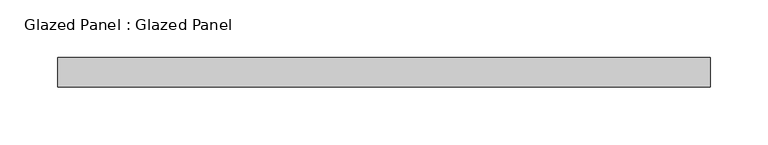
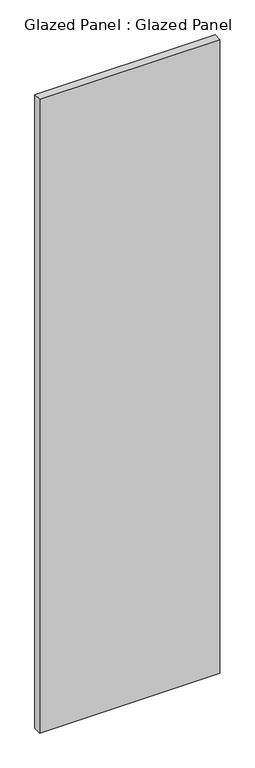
"""IFC4 building model written with IfcOpenShell, lengths in millimetres: plate geometry, Glazed Panel : Glazed Panel."""

import ifcopenshell
import ifcopenshell.guid

model = None  # the IFC model being written
_history = None  # IfcOwnerHistory: only IFC2X3 demands one
_inside = {}  # id of a spatial element -> (the spatial element, [elements in it])
_under = {}  # id of a project, library or spatial element -> (it, [spatial elements below it])
_declared = {}  # id of a project -> (the project, [libraries it declares])
_typed = {}  # id of a type object -> (the type object, [elements of that type])
_made_of = {}  # id of a material, layer set ... -> (it, [elements and type objects made of it])


def new_model(schema):
    """Start an empty IFC model of exactly this schema.

    Asked for "IFC4X3", IfcOpenShell would pick the latest addendum, in which some entities
    have other attributes; the version numbers below select the first issue.
    IFC2X3 requires an IfcOwnerHistory on every rooted entity: one is made here for all.
    """
    global model, _history
    if schema == "IFC4X3":
        model = ifcopenshell.file(schema_version=(4, 3, 0, 0))
    else:
        model = ifcopenshell.file(schema=schema)
    _inside.clear()
    _under.clear()
    _declared.clear()
    _typed.clear()
    _made_of.clear()
    _history = None
    if model.schema == "IFC2X3":
        org = make("IfcOrganization", Name="unknown")
        user = make(
            "IfcPersonAndOrganization",
            ThePerson=make("IfcPerson", FamilyName="unknown"),
            TheOrganization=org,
        )
        app = make(
            "IfcApplication",
            ApplicationDeveloper=org,
            Version="unknown",
            ApplicationFullName="unknown",
            ApplicationIdentifier="unknown",
        )
        _history = make(
            "IfcOwnerHistory",
            OwningUser=user,
            OwningApplication=app,
            ChangeAction="ADDED",
            CreationDate=0,
        )
    return model


def make(cls, **values):
    """One entity of the class cls with the attributes given. An attribute that is None is left unset."""
    return model.create_entity(
        cls, **{name: value for name, value in values.items() if value is not None}
    )


def rooted(cls, **values):
    """An entity with a GlobalId (a new one), such as an element, a storey or a relation."""
    return make(cls, GlobalId=ifcopenshell.guid.new(), OwnerHistory=_history, **values)


def si_unit(unit_type, name, prefix=None):
    """IfcSIUnit, for example si_unit("LENGTHUNIT", "METRE", prefix="MILLI")."""
    return make("IfcSIUnit", UnitType=unit_type, Prefix=prefix, Name=name)


def assignment(units):
    """IfcUnitAssignment: the units of a project."""
    return None if units is None else make("IfcUnitAssignment", Units=units)


def point(xyz):
    """IfcCartesianPoint."""
    return None if xyz is None else make("IfcCartesianPoint", Coordinates=xyz)


def direction(xyz):
    """IfcDirection."""
    return None if xyz is None else make("IfcDirection", DirectionRatios=xyz)


def frame(location, z_axis=None, x_axis=None):
    """IfcAxis2Placement3D, a coordinate frame: its origin and axes. An axis left out is left unset."""
    return make(
        "IfcAxis2Placement3D",
        Location=point(location),
        Axis=direction(z_axis),
        RefDirection=direction(x_axis),
    )


def origin():
    """The frame at (0, 0, 0) with its axes left unset."""
    return frame((0.0, 0.0, 0.0))


def origin_with_axes():
    """The frame at (0, 0, 0) with the z axis (0, 0, 1) and the x axis (1, 0, 0) written out."""
    return frame((0.0, 0.0, 0.0), z_axis=(0.0, 0.0, 1.0), x_axis=(1.0, 0.0, 0.0))


def place(relative_to, where):
    """IfcLocalPlacement: puts the frame where relative to a parent placement (None: the world)."""
    return make(
        "IfcLocalPlacement", PlacementRelTo=relative_to, RelativePlacement=where
    )


def context(
    kind, dimensions, precision=None, world=None, true_north=None, identifier=None
):
    """IfcGeometricRepresentationContext, for example the 3D "Model" context."""
    return make(
        "IfcGeometricRepresentationContext",
        ContextIdentifier=identifier,
        ContextType=kind,
        CoordinateSpaceDimension=dimensions,
        Precision=precision,
        WorldCoordinateSystem=world,
        TrueNorth=true_north,
    )


def project(units=None, contexts=None):
    """IfcProject with its units and contexts."""
    return rooted(
        "IfcProject",
        Name="project",
        RepresentationContexts=contexts,
        UnitsInContext=assignment(units),
    )


def spatial(cls, under=None, at=None, **own):
    """A site, building, storey or space (cls), placed at a placement, below another one or the project."""
    s = rooted(cls, ObjectPlacement=at, **own)
    if under is not None:
        _under.setdefault(under.id(), (under, []))[1].append(s)
    return s


def polyline(points):
    """IfcPolyline through the points."""
    return make("IfcPolyline", Points=[point(p) for p in points])


def outline(outer, holes=None, kind="AREA"):
    """IfcArbitraryClosedProfileDef: a profile drawn as a closed curve; with holes, ...WithVoids."""
    if holes is None:
        return make("IfcArbitraryClosedProfileDef", ProfileType=kind, OuterCurve=outer)
    return make(
        "IfcArbitraryProfileDefWithVoids",
        ProfileType=kind,
        OuterCurve=outer,
        InnerCurves=holes,
    )


def extrude(swept, where, along, depth):
    """IfcExtrudedAreaSolid: the profile swept, set in the frame where, extruded along a direction by depth."""
    return make(
        "IfcExtrudedAreaSolid",
        SweptArea=swept,
        Position=where,
        ExtrudedDirection=direction(along),
        Depth=depth,
    )


def shape(context_of_items, identifier, shape_type, items):
    """IfcShapeRepresentation: the items that make up one representation, for example the "Body"."""
    return make(
        "IfcShapeRepresentation",
        ContextOfItems=context_of_items,
        RepresentationIdentifier=identifier,
        RepresentationType=shape_type,
        Items=items,
    )


def source(mapping_origin, context_of_items, identifier, shape_type, items):
    """IfcRepresentationMap: a shape defined once, which mapped items show again and again."""
    return make(
        "IfcRepresentationMap",
        MappingOrigin=mapping_origin,
        MappedRepresentation=shape(context_of_items, identifier, shape_type, items),
    )


def transform(
    local_origin,
    x_axis=None,
    y_axis=None,
    z_axis=None,
    scale=None,
    scale2=None,
    scale3=None,
    uniform=True,
):
    """IfcCartesianTransformationOperator3D, or its non-uniform kind. x_axis, y_axis, z_axis: its Axis1, 2, 3."""
    if uniform:
        return make(
            "IfcCartesianTransformationOperator3D",
            Axis1=direction(x_axis),
            Axis2=direction(y_axis),
            LocalOrigin=point(local_origin),
            Scale=scale,
            Axis3=direction(z_axis),
        )
    return make(
        "IfcCartesianTransformationOperator3DnonUniform",
        Axis1=direction(x_axis),
        Axis2=direction(y_axis),
        LocalOrigin=point(local_origin),
        Scale=scale,
        Axis3=direction(z_axis),
        Scale2=scale2,
        Scale3=scale3,
    )


def mapped(mapping_source, mapping_target):
    """IfcMappedItem: shows the shape of a source again, moved by a transform."""
    return make(
        "IfcMappedItem", MappingSource=mapping_source, MappingTarget=mapping_target
    )


def made_of(thing, what):
    """Note that an element or type object is made of a material, layer set ...; save() writes the relation."""
    if what is not None:
        _made_of.setdefault(what.id(), (what, []))[1].append(thing)
    return thing


def element(
    cls,
    number,
    at=None,
    inside=None,
    cuts=None,
    type_object=None,
    material=None,
    context=None,
    identifier="Body",
    shape_type=None,
    held_by="IfcProductDefinitionShape",
    body=None,
    shapes=None,
    **own,
):
    """One element of the class cls, such as IfcWall. Its Tag is "e" and its number.

    at: its placement. inside: the storey or other place that contains it. cuts: it is an
    opening in that element (IfcRelVoidsElement). A single representation is given by context,
    identifier, shape_type and body (its items); several are given by shapes. held_by: the class
    of the entity that holds the representations. save() writes the other relations.
    """
    e = rooted(cls, Tag="e%d" % number, ObjectPlacement=at, **own)
    if body is not None:
        shapes = [shape(context, identifier, shape_type, body)]
    if shapes is not None:
        e.Representation = make(held_by, Representations=shapes)
    if inside is not None:
        _inside.setdefault(inside.id(), (inside, []))[1].append(e)
    if cuts is not None:
        rooted(
            "IfcRelVoidsElement", RelatingBuildingElement=cuts, RelatedOpeningElement=e
        )
    if type_object is not None:
        _typed.setdefault(type_object.id(), (type_object, []))[1].append(e)
    return made_of(e, material)


def aggregate(whole, parts):
    """IfcRelAggregates: a whole, such as a stair, and the parts it consists of."""
    return rooted("IfcRelAggregates", RelatingObject=whole, RelatedObjects=parts)


def save(model, path):
    """Write the relations noted so far, then the file.

    IfcRelAggregates (storeys below a building ...), IfcRelContainedInSpatialStructure (elements
    in a storey), IfcRelDefinesByType, IfcRelAssociatesMaterial and IfcRelDeclares: one each for
    every whole, place, type object, material and project.
    """
    for whole, parts in _under.values():
        aggregate(whole, parts)
    for where, things in _inside.values():
        rooted(
            "IfcRelContainedInSpatialStructure",
            RelatedElements=things,
            RelatingStructure=where,
        )
    for kind, things in _typed.values():
        rooted("IfcRelDefinesByType", RelatedObjects=things, RelatingType=kind)
    for what, things in _made_of.values():
        rooted("IfcRelAssociatesMaterial", RelatedObjects=things, RelatingMaterial=what)
    for by, libraries in _declared.values():
        rooted("IfcRelDeclares", RelatingContext=by, RelatedDefinitions=libraries)
    model.write(path)


def glazed_panel_glazed_panel_31fbc108(model_context):
    return source(origin(), model_context, "Body", "SweptSolid", [
        extrude(outline(polyline([(282.575, 38.1), (-282.575, 38.1), (-282.575, 63.5), (282.575, 63.5), (282.575, 38.1)])), origin_with_axes(), (0.0, 0.0, 1.0), 2101.85),
    ])


if __name__ == "__main__":
    model = new_model("IFC4")
    model_context = context("Model", 3, world=origin())
    ifc_project = project(units=[si_unit("LENGTHUNIT", "METRE", prefix="MILLI")], contexts=[model_context])
    site = spatial("IfcSite", under=ifc_project)
    building = spatial("IfcBuilding", under=site)
    placement = place(None, origin())
    glazed_panel_glazed_panel_shape = glazed_panel_glazed_panel_31fbc108(model_context)
    element("IfcPlate", 1, ObjectType="Glazed Panel : Glazed Panel", at=placement, inside=building, context=model_context, shape_type="MappedRepresentation", body=[
        mapped(glazed_panel_glazed_panel_shape, transform((0.0, 0.0, 0.0), x_axis=(1.0, 0.0, 0.0), y_axis=(0.0, 1.0, 0.0), z_axis=(0.0, 0.0, 1.0))),
    ])
    save(model, "model.ifc")
